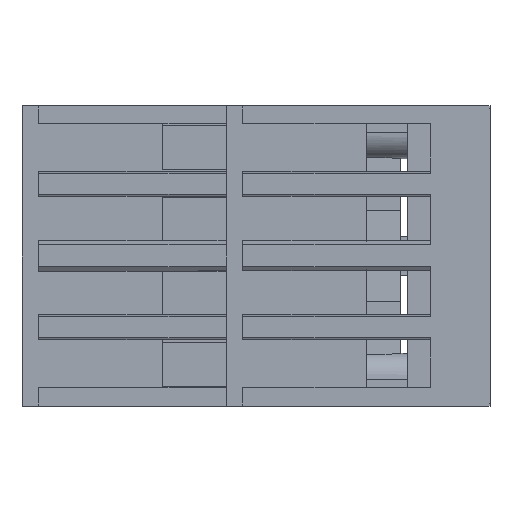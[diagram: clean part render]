
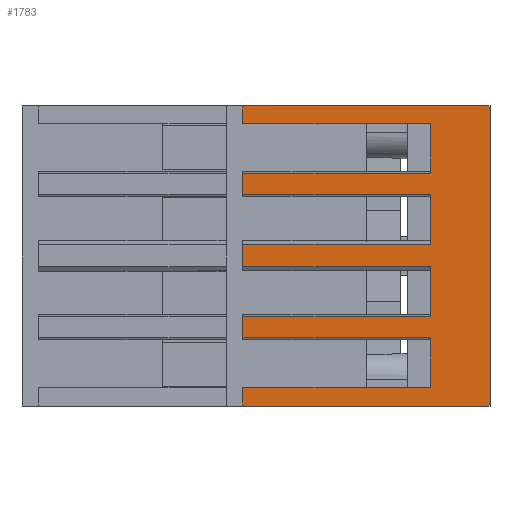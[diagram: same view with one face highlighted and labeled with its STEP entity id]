
A CAD part, left-side view. The second image highlights one B-rep face of the part: STEP entity #1783.
In plain terms, the highlighted planar face has unit normal (-1, 0, 0).
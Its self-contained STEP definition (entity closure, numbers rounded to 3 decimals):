
#1783=ADVANCED_FACE('',(#4117),#2958,.F.);
#2958=PLANE('',#25991);
#4117=FACE_OUTER_BOUND('',#5356,.T.);
#5356=EDGE_LOOP('',(#10346,#10347,#10348,#10349,#10350,#10351,#10352,#10353,
#10354,#10355,#10356,#10357,#10358,#10359,#10360,#10361,#10362,#10363,#10364,
#10365));
#10346=ORIENTED_EDGE('',*,*,#18051,.F.);
#10347=ORIENTED_EDGE('',*,*,#18052,.T.);
#10348=ORIENTED_EDGE('',*,*,#17966,.T.);
#10349=ORIENTED_EDGE('',*,*,#18053,.F.);
#10350=ORIENTED_EDGE('',*,*,#18054,.F.);
#10351=ORIENTED_EDGE('',*,*,#18055,.T.);
#10352=ORIENTED_EDGE('',*,*,#17970,.T.);
#10353=ORIENTED_EDGE('',*,*,#18056,.F.);
#10354=ORIENTED_EDGE('',*,*,#18057,.F.);
#10355=ORIENTED_EDGE('',*,*,#18058,.T.);
#10356=ORIENTED_EDGE('',*,*,#17980,.T.);
#10357=ORIENTED_EDGE('',*,*,#18059,.F.);
#10358=ORIENTED_EDGE('',*,*,#18060,.F.);
#10359=ORIENTED_EDGE('',*,*,#18061,.T.);
#10360=ORIENTED_EDGE('',*,*,#17974,.T.);
#10361=ORIENTED_EDGE('',*,*,#17996,.T.);
#10362=ORIENTED_EDGE('',*,*,#18062,.F.);
#10363=ORIENTED_EDGE('',*,*,#18038,.F.);
#10364=ORIENTED_EDGE('',*,*,#18063,.T.);
#10365=ORIENTED_EDGE('',*,*,#18064,.F.);
#14944=VERTEX_POINT('',#48608);
#14945=VERTEX_POINT('',#48609);
#14948=VERTEX_POINT('',#48617);
#14949=VERTEX_POINT('',#48618);
#14952=VERTEX_POINT('',#48626);
#14953=VERTEX_POINT('',#48627);
#14958=VERTEX_POINT('',#48638);
#14959=VERTEX_POINT('',#48640);
#14969=VERTEX_POINT('',#48670);
#14999=VERTEX_POINT('',#48748);
#15000=VERTEX_POINT('',#48750);
#15008=VERTEX_POINT('',#48773);
#15009=VERTEX_POINT('',#48774);
#15010=VERTEX_POINT('',#48777);
#15011=VERTEX_POINT('',#48779);
#15012=VERTEX_POINT('',#48782);
#15013=VERTEX_POINT('',#48784);
#15014=VERTEX_POINT('',#48787);
#15015=VERTEX_POINT('',#48789);
#15016=VERTEX_POINT('',#48793);
#17966=EDGE_CURVE('',#14944,#14945,#21154,.T.);
#17970=EDGE_CURVE('',#14948,#14949,#21158,.T.);
#17974=EDGE_CURVE('',#14952,#14953,#21162,.T.);
#17980=EDGE_CURVE('',#14959,#14958,#21168,.T.);
#17996=EDGE_CURVE('',#14953,#14969,#21184,.T.);
#18038=EDGE_CURVE('',#14999,#15000,#21226,.T.);
#18051=EDGE_CURVE('',#15008,#15009,#21239,.T.);
#18052=EDGE_CURVE('',#15008,#14944,#21240,.T.);
#18053=EDGE_CURVE('',#15010,#14945,#21241,.T.);
#18054=EDGE_CURVE('',#15011,#15010,#21242,.T.);
#18055=EDGE_CURVE('',#15011,#14948,#21243,.T.);
#18056=EDGE_CURVE('',#15012,#14949,#21244,.T.);
#18057=EDGE_CURVE('',#15013,#15012,#21245,.T.);
#18058=EDGE_CURVE('',#15013,#14959,#21246,.T.);
#18059=EDGE_CURVE('',#15014,#14958,#21247,.T.);
#18060=EDGE_CURVE('',#15015,#15014,#21248,.T.);
#18061=EDGE_CURVE('',#15015,#14952,#21249,.T.);
#18062=EDGE_CURVE('',#15000,#14969,#21250,.T.);
#18063=EDGE_CURVE('',#14999,#15016,#21251,.T.);
#18064=EDGE_CURVE('',#15009,#15016,#21252,.T.);
#21154=LINE('',#48607,#24165);
#21158=LINE('',#48616,#24169);
#21162=LINE('',#48625,#24173);
#21168=LINE('',#48639,#24179);
#21184=LINE('',#48671,#24195);
#21226=LINE('',#48749,#24237);
#21239=LINE('',#48772,#24250);
#21240=LINE('',#48775,#24251);
#21241=LINE('',#48776,#24252);
#21242=LINE('',#48778,#24253);
#21243=LINE('',#48780,#24254);
#21244=LINE('',#48781,#24255);
#21245=LINE('',#48783,#24256);
#21246=LINE('',#48785,#24257);
#21247=LINE('',#48786,#24258);
#21248=LINE('',#48788,#24259);
#21249=LINE('',#48790,#24260);
#21250=LINE('',#48791,#24261);
#21251=LINE('',#48792,#24262);
#21252=LINE('',#48794,#24263);
#24165=VECTOR('',#30733,1.);
#24169=VECTOR('',#30739,1.);
#24173=VECTOR('',#30745,1.);
#24179=VECTOR('',#30753,1.);
#24195=VECTOR('',#30779,1.);
#24237=VECTOR('',#30833,1.);
#24250=VECTOR('',#30850,1.);
#24251=VECTOR('',#30851,1.);
#24252=VECTOR('',#30852,1.);
#24253=VECTOR('',#30853,1.);
#24254=VECTOR('',#30854,1.);
#24255=VECTOR('',#30855,1.);
#24256=VECTOR('',#30856,1.);
#24257=VECTOR('',#30857,1.);
#24258=VECTOR('',#30858,1.);
#24259=VECTOR('',#30859,1.);
#24260=VECTOR('',#30860,1.);
#24261=VECTOR('',#30861,1.);
#24262=VECTOR('',#30862,1.);
#24263=VECTOR('',#30863,1.);
#25991=AXIS2_PLACEMENT_3D('',#48795,#30864,#30865);
#30733=DIRECTION('',(0.,0.,-1.));
#30739=DIRECTION('',(0.,0.,-1.));
#30745=DIRECTION('',(0.,0.,-1.));
#30753=DIRECTION('',(0.,0.,-1.));
#30779=DIRECTION('',(0.,-1.,0.));
#30833=DIRECTION('',(0.,-1.,0.));
#30850=DIRECTION('',(0.,0.,1.));
#30851=DIRECTION('',(0.,1.,0.));
#30852=DIRECTION('',(0.,1.,0.));
#30853=DIRECTION('',(0.,0.,1.));
#30854=DIRECTION('',(0.,1.,0.));
#30855=DIRECTION('',(0.,1.,0.));
#30856=DIRECTION('',(0.,0.,1.));
#30857=DIRECTION('',(0.,1.,0.));
#30858=DIRECTION('',(0.,1.,0.));
#30859=DIRECTION('',(0.,0.,1.));
#30860=DIRECTION('',(0.,1.,0.));
#30861=DIRECTION('',(0.,0.,-1.));
#30862=DIRECTION('',(0.,0.,-1.));
#30863=DIRECTION('',(0.,1.,0.));
#30864=DIRECTION('',(1.,0.,0.));
#30865=DIRECTION('',(0.,0.,-1.));
#48607=CARTESIAN_POINT('',(-38.35,22.4,27.2));
#48608=CARTESIAN_POINT('',(-38.35,22.4,21.1));
#48609=CARTESIAN_POINT('',(-38.35,22.4,19.2));
#48616=CARTESIAN_POINT('',(-38.35,22.4,27.2));
#48617=CARTESIAN_POINT('',(-38.35,22.4,14.647));
#48618=CARTESIAN_POINT('',(-38.35,22.4,12.647));
#48625=CARTESIAN_POINT('',(-38.35,22.4,27.2));
#48626=CARTESIAN_POINT('',(-38.35,22.4,1.695));
#48627=CARTESIAN_POINT('',(-38.35,22.4,0.));
#48638=CARTESIAN_POINT('',(-38.35,22.4,6.195));
#48639=CARTESIAN_POINT('',(-38.35,22.4,27.2));
#48640=CARTESIAN_POINT('',(-38.35,22.4,8.095));
#48670=CARTESIAN_POINT('',(-38.35,0.,0.));
#48671=CARTESIAN_POINT('',(-38.35,0.,0.));
#48748=CARTESIAN_POINT('',(-38.35,22.4,27.2));
#48749=CARTESIAN_POINT('',(-38.35,0.,27.2));
#48750=CARTESIAN_POINT('',(-38.35,0.,27.2));
#48772=CARTESIAN_POINT('',(-38.35,5.4,25.6));
#48773=CARTESIAN_POINT('',(-38.35,5.4,21.1));
#48774=CARTESIAN_POINT('',(-38.35,5.4,25.6));
#48775=CARTESIAN_POINT('',(-38.35,5.4,21.1));
#48776=CARTESIAN_POINT('',(-38.35,5.4,19.2));
#48777=CARTESIAN_POINT('',(-38.35,5.4,19.2));
#48778=CARTESIAN_POINT('',(-38.35,5.4,19.2));
#48779=CARTESIAN_POINT('',(-38.35,5.4,14.647));
#48780=CARTESIAN_POINT('',(-38.35,5.4,14.647));
#48781=CARTESIAN_POINT('',(-38.35,5.4,12.647));
#48782=CARTESIAN_POINT('',(-38.35,5.4,12.647));
#48783=CARTESIAN_POINT('',(-38.35,5.4,12.647));
#48784=CARTESIAN_POINT('',(-38.35,5.4,8.095));
#48785=CARTESIAN_POINT('',(-38.35,5.4,8.095));
#48786=CARTESIAN_POINT('',(-38.35,5.4,6.195));
#48787=CARTESIAN_POINT('',(-38.35,5.4,6.195));
#48788=CARTESIAN_POINT('',(-38.35,5.4,6.195));
#48789=CARTESIAN_POINT('',(-38.35,5.4,1.695));
#48790=CARTESIAN_POINT('',(-38.35,5.4,1.695));
#48791=CARTESIAN_POINT('',(-38.35,0.,27.2));
#48792=CARTESIAN_POINT('',(-38.35,22.4,27.2));
#48793=CARTESIAN_POINT('',(-38.35,22.4,25.6));
#48794=CARTESIAN_POINT('',(-38.35,5.4,25.6));
#48795=CARTESIAN_POINT('',(-38.35,0.,27.2));
